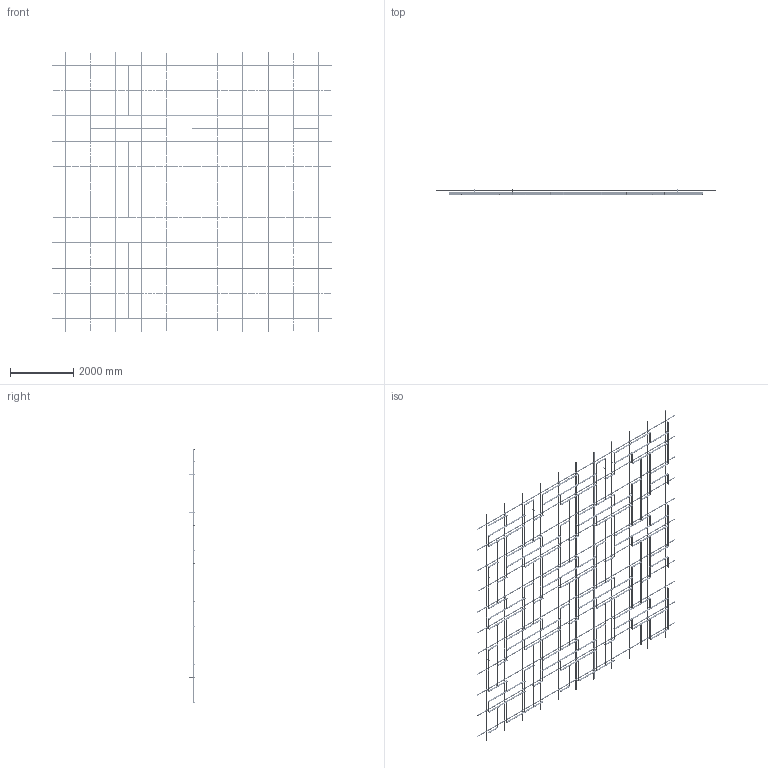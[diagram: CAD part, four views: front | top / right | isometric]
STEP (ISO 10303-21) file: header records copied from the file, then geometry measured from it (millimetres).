
FILE_DESCRIPTION (( 'STEP AP203' ), '1' );
FILE_NAME ('21 ìèíè ñ ïñ.STEP', '2025-11-26T08:10:23', ( '' ), ( '' ), 'SwSTEP 2.0', 'SolidWorks 2020', '' );
FILE_SCHEMA (( 'CONFIG_CONTROL_DESIGN' ));
Length unit declared in the file: millimetre
Products named in the file (5): 21.stp; SS.SEMA.2400 - Ñèìà-ïðîôèëü; Ñèñòåìà â çîíå 8000õ8000; SS.SEMA.2400 - Ñèìà-ïðîôèëü — îáðåçàí 1600; 21 ìèíè ñ ïñ
Assembly tree (90 placements, depth 3):
  21 ìèíè ñ ïñ
    Ñèñòåìà â çîíå 8000õ8000
      SS.SEMA.2400 - Ñèìà-ïðîôèëü  x66
      SS.SEMA.2400 - Ñèìà-ïðîôèëü — îáðåçàí 1600  x22
    21.stp
Bounding box: 8800 x 160 x 8800 mm (x, y, z)
Volume: 97066752.8 mm3; surface area: 51171016.8 mm2
Topology: 1325 solids, 1325 shells, 22066 faces, 56840 edges, 37424 vertices
Faces by surface type: cylinder 13714, plane 8352
Entity records: 142465 total; most frequent: CARTESIAN_POINT 33608, DIRECTION 20910, ORIENTED_EDGE 20528, EDGE_CURVE 10264, AXIS2_PLACEMENT_3D 10206, VERTEX_POINT 6832, EDGE_LOOP 6072, ADVANCED_FACE 5910
